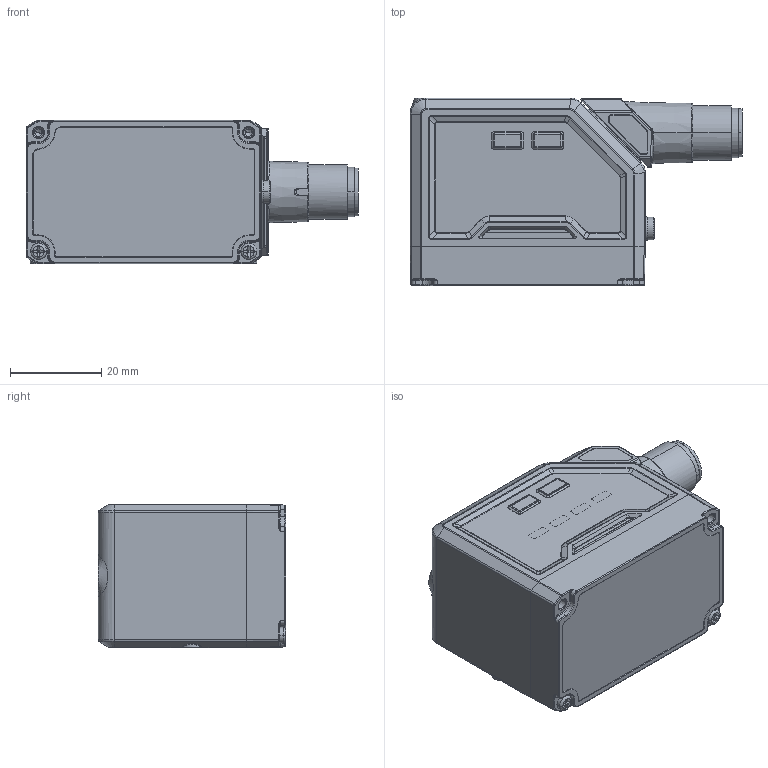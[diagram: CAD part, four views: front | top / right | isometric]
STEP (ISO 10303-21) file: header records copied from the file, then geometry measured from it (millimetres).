
FILE_DESCRIPTION((''),'2;1');
FILE_NAME('000-ID2000X-0','2025-09-11T12:32:08',('yangxiaobing6'),(''),'CREO PARAMETRIC BY PTC INC, 2020044','CREO PARAMETRIC BY PTC INC, 2020044','');
FILE_SCHEMA(('CONFIG_CONTROL_DESIGN','SHAPE_APPEARANCE_LAYERS_GROUPS'));
Products named in the file (1): 000-ID2000X-0
Bounding box: 72.67 x 41 x 31.5 mm (x, y, z)
Volume: 62902.5 mm3; surface area: 18815.1 mm2
Topology: 1 solids, 25 shells, 1784 faces, 4420 edges, 2719 vertices
Faces by surface type: plane 608, cylinder 556, cone 268, bspline 185, torus 134, extrusion 21, sphere 12
Entity records: 65667 total; most frequent: CARTESIAN_POINT 20957, ORIENTED_EDGE 8756, DIRECTION 8358, EDGE_CURVE 4378, AXIS2_PLACEMENT_3D 3128, VERTEX_POINT 2719, VECTOR 2102, LINE 2081
